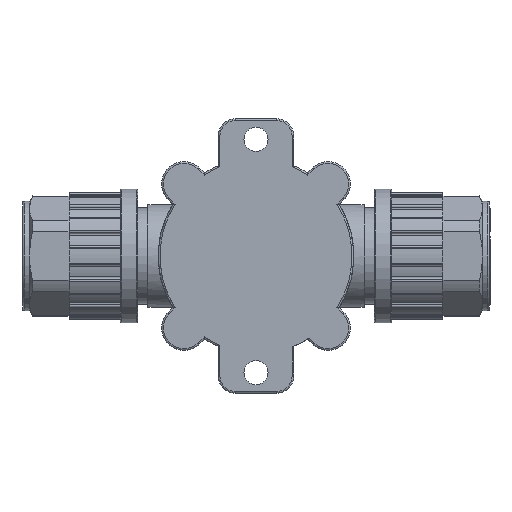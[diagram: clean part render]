
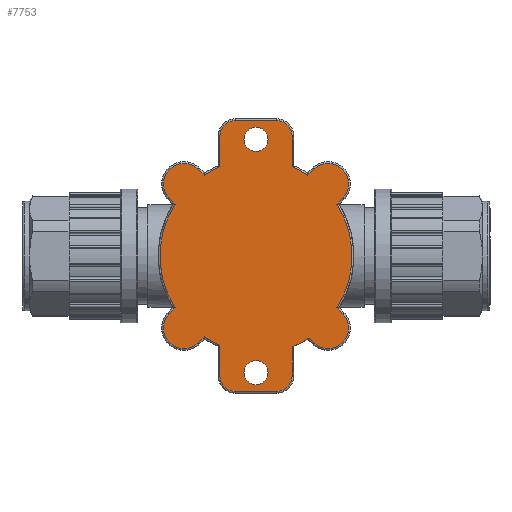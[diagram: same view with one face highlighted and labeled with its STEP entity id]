
A CAD part, front view. The second image highlights one B-rep face of the part: STEP entity #7753.
In plain terms, the highlighted planar face has unit normal (0, -1, 0).
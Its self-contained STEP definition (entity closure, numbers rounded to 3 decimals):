
#4340=LINE('',#43058,#6520);
#4341=LINE('',#43062,#6521);
#4342=LINE('',#43066,#6522);
#4343=LINE('',#43070,#6523);
#4344=LINE('',#43074,#6524);
#4345=LINE('',#43078,#6525);
#4346=LINE('',#43082,#6526);
#4347=LINE('',#43086,#6527);
#4348=LINE('',#43090,#6528);
#4349=LINE('',#43094,#6529);
#4350=LINE('',#43098,#6530);
#4351=LINE('',#43102,#6531);
#4352=LINE('',#43106,#6532);
#4353=LINE('',#43110,#6533);
#6520=VECTOR('',#30358,1.);
#6521=VECTOR('',#30361,1.);
#6522=VECTOR('',#30364,1.);
#6523=VECTOR('',#30367,1.);
#6524=VECTOR('',#30370,1.);
#6525=VECTOR('',#30373,1.);
#6526=VECTOR('',#30376,1.);
#6527=VECTOR('',#30379,1.);
#6528=VECTOR('',#30382,1.);
#6529=VECTOR('',#30385,1.);
#6530=VECTOR('',#30388,1.);
#6531=VECTOR('',#30391,1.);
#6532=VECTOR('',#30394,1.);
#6533=VECTOR('',#30397,1.);
#7753=ADVANCED_FACE('',(#8712,#8713,#8714),#8504,.F.);
#8504=PLANE('',#24707);
#8712=FACE_BOUND('',#10021,.T.);
#8713=FACE_BOUND('',#10022,.T.);
#8714=FACE_BOUND('',#10023,.T.);
#10021=EDGE_LOOP('',(#16237,#16238,#16239,#16240,#16241,#16242,#16243,#16244,
#16245,#16246,#16247,#16248,#16249,#16250,#16251,#16252,#16253,#16254,#16255,
#16256,#16257,#16258,#16259,#16260,#16261,#16262,#16263,#16264));
#10022=EDGE_LOOP('',(#16265));
#10023=EDGE_LOOP('',(#16266));
#16237=ORIENTED_EDGE('',*,*,#21975,.F.);
#16238=ORIENTED_EDGE('',*,*,#21976,.T.);
#16239=ORIENTED_EDGE('',*,*,#21977,.T.);
#16240=ORIENTED_EDGE('',*,*,#21978,.T.);
#16241=ORIENTED_EDGE('',*,*,#21979,.T.);
#16242=ORIENTED_EDGE('',*,*,#21980,.T.);
#16243=ORIENTED_EDGE('',*,*,#21981,.T.);
#16244=ORIENTED_EDGE('',*,*,#21982,.T.);
#16245=ORIENTED_EDGE('',*,*,#21983,.T.);
#16246=ORIENTED_EDGE('',*,*,#21984,.T.);
#16247=ORIENTED_EDGE('',*,*,#21985,.T.);
#16248=ORIENTED_EDGE('',*,*,#21986,.T.);
#16249=ORIENTED_EDGE('',*,*,#21987,.T.);
#16250=ORIENTED_EDGE('',*,*,#21988,.T.);
#16251=ORIENTED_EDGE('',*,*,#21989,.T.);
#16252=ORIENTED_EDGE('',*,*,#21990,.T.);
#16253=ORIENTED_EDGE('',*,*,#21991,.T.);
#16254=ORIENTED_EDGE('',*,*,#21992,.T.);
#16255=ORIENTED_EDGE('',*,*,#21993,.T.);
#16256=ORIENTED_EDGE('',*,*,#21994,.T.);
#16257=ORIENTED_EDGE('',*,*,#21995,.T.);
#16258=ORIENTED_EDGE('',*,*,#21996,.T.);
#16259=ORIENTED_EDGE('',*,*,#21997,.T.);
#16260=ORIENTED_EDGE('',*,*,#21998,.T.);
#16261=ORIENTED_EDGE('',*,*,#21999,.T.);
#16262=ORIENTED_EDGE('',*,*,#22000,.T.);
#16263=ORIENTED_EDGE('',*,*,#22001,.T.);
#16264=ORIENTED_EDGE('',*,*,#22002,.T.);
#16265=ORIENTED_EDGE('',*,*,#22003,.T.);
#16266=ORIENTED_EDGE('',*,*,#22004,.T.);
#18778=VERTEX_POINT('',#43056);
#18779=VERTEX_POINT('',#43057);
#18780=VERTEX_POINT('',#43059);
#18781=VERTEX_POINT('',#43061);
#18782=VERTEX_POINT('',#43063);
#18783=VERTEX_POINT('',#43065);
#18784=VERTEX_POINT('',#43067);
#18785=VERTEX_POINT('',#43069);
#18786=VERTEX_POINT('',#43071);
#18787=VERTEX_POINT('',#43073);
#18788=VERTEX_POINT('',#43075);
#18789=VERTEX_POINT('',#43077);
#18790=VERTEX_POINT('',#43079);
#18791=VERTEX_POINT('',#43081);
#18792=VERTEX_POINT('',#43083);
#18793=VERTEX_POINT('',#43085);
#18794=VERTEX_POINT('',#43087);
#18795=VERTEX_POINT('',#43089);
#18796=VERTEX_POINT('',#43091);
#18797=VERTEX_POINT('',#43093);
#18798=VERTEX_POINT('',#43095);
#18799=VERTEX_POINT('',#43097);
#18800=VERTEX_POINT('',#43099);
#18801=VERTEX_POINT('',#43101);
#18802=VERTEX_POINT('',#43103);
#18803=VERTEX_POINT('',#43105);
#18804=VERTEX_POINT('',#43107);
#18805=VERTEX_POINT('',#43109);
#18806=VERTEX_POINT('',#43112);
#18807=VERTEX_POINT('',#43114);
#21975=EDGE_CURVE('',#18778,#18779,#22907,.T.);
#21976=EDGE_CURVE('',#18778,#18780,#4340,.T.);
#21977=EDGE_CURVE('',#18780,#18781,#22908,.T.);
#21978=EDGE_CURVE('',#18781,#18782,#4341,.T.);
#21979=EDGE_CURVE('',#18782,#18783,#22909,.T.);
#21980=EDGE_CURVE('',#18783,#18784,#4342,.T.);
#21981=EDGE_CURVE('',#18784,#18785,#22910,.T.);
#21982=EDGE_CURVE('',#18785,#18786,#4343,.T.);
#21983=EDGE_CURVE('',#18786,#18787,#22911,.T.);
#21984=EDGE_CURVE('',#18787,#18788,#4344,.T.);
#21985=EDGE_CURVE('',#18788,#18789,#22912,.T.);
#21986=EDGE_CURVE('',#18789,#18790,#4345,.T.);
#21987=EDGE_CURVE('',#18790,#18791,#22913,.T.);
#21988=EDGE_CURVE('',#18791,#18792,#4346,.T.);
#21989=EDGE_CURVE('',#18792,#18793,#22914,.T.);
#21990=EDGE_CURVE('',#18793,#18794,#4347,.T.);
#21991=EDGE_CURVE('',#18794,#18795,#22915,.T.);
#21992=EDGE_CURVE('',#18795,#18796,#4348,.T.);
#21993=EDGE_CURVE('',#18796,#18797,#22916,.T.);
#21994=EDGE_CURVE('',#18797,#18798,#4349,.T.);
#21995=EDGE_CURVE('',#18798,#18799,#22917,.T.);
#21996=EDGE_CURVE('',#18799,#18800,#4350,.T.);
#21997=EDGE_CURVE('',#18800,#18801,#22918,.T.);
#21998=EDGE_CURVE('',#18801,#18802,#4351,.T.);
#21999=EDGE_CURVE('',#18802,#18803,#22919,.T.);
#22000=EDGE_CURVE('',#18803,#18804,#4352,.T.);
#22001=EDGE_CURVE('',#18804,#18805,#22920,.T.);
#22002=EDGE_CURVE('',#18805,#18779,#4353,.T.);
#22003=EDGE_CURVE('',#18806,#18806,#22921,.T.);
#22004=EDGE_CURVE('',#18807,#18807,#22922,.T.);
#22907=CIRCLE('',#24691,28.5);
#22908=CIRCLE('',#24692,6.);
#22909=CIRCLE('',#24693,28.);
#22910=CIRCLE('',#24694,6.);
#22911=CIRCLE('',#24695,28.);
#22912=CIRCLE('',#24696,4.5);
#22913=CIRCLE('',#24697,4.5);
#22914=CIRCLE('',#24698,28.);
#22915=CIRCLE('',#24699,6.);
#22916=CIRCLE('',#24700,28.);
#22917=CIRCLE('',#24701,6.);
#22918=CIRCLE('',#24702,28.);
#22919=CIRCLE('',#24703,4.5);
#22920=CIRCLE('',#24704,4.5);
#22921=CIRCLE('',#24705,3.5);
#22922=CIRCLE('',#24706,3.5);
#24691=AXIS2_PLACEMENT_3D('',#43055,#30356,#30357);
#24692=AXIS2_PLACEMENT_3D('',#43060,#30359,#30360);
#24693=AXIS2_PLACEMENT_3D('',#43064,#30362,#30363);
#24694=AXIS2_PLACEMENT_3D('',#43068,#30365,#30366);
#24695=AXIS2_PLACEMENT_3D('',#43072,#30368,#30369);
#24696=AXIS2_PLACEMENT_3D('',#43076,#30371,#30372);
#24697=AXIS2_PLACEMENT_3D('',#43080,#30374,#30375);
#24698=AXIS2_PLACEMENT_3D('',#43084,#30377,#30378);
#24699=AXIS2_PLACEMENT_3D('',#43088,#30380,#30381);
#24700=AXIS2_PLACEMENT_3D('',#43092,#30383,#30384);
#24701=AXIS2_PLACEMENT_3D('',#43096,#30386,#30387);
#24702=AXIS2_PLACEMENT_3D('',#43100,#30389,#30390);
#24703=AXIS2_PLACEMENT_3D('',#43104,#30392,#30393);
#24704=AXIS2_PLACEMENT_3D('',#43108,#30395,#30396);
#24705=AXIS2_PLACEMENT_3D('',#43111,#30398,#30399);
#24706=AXIS2_PLACEMENT_3D('',#43113,#30400,#30401);
#24707=AXIS2_PLACEMENT_3D('',#43115,#30402,#30403);
#30356=DIRECTION('',(0.,1.,0.));
#30357=DIRECTION('',(0.,0.,1.));
#30358=DIRECTION('',(0.707,0.,-0.707));
#30359=DIRECTION('',(0.,-1.,0.));
#30360=DIRECTION('',(0.,0.,1.));
#30361=DIRECTION('',(-0.707,0.,0.707));
#30362=DIRECTION('',(0.,-1.,0.));
#30363=DIRECTION('',(0.,0.,1.));
#30364=DIRECTION('',(0.707,0.,0.707));
#30365=DIRECTION('',(0.,-1.,0.));
#30366=DIRECTION('',(0.,0.,1.));
#30367=DIRECTION('',(-0.707,0.,-0.707));
#30368=DIRECTION('',(0.,-1.,0.));
#30369=DIRECTION('',(0.,0.,1.));
#30370=DIRECTION('',(0.,0.,1.));
#30371=DIRECTION('',(0.,-1.,0.));
#30372=DIRECTION('',(0.,0.,1.));
#30373=DIRECTION('',(-1.,0.,0.));
#30374=DIRECTION('',(0.,-1.,0.));
#30375=DIRECTION('',(0.,0.,1.));
#30376=DIRECTION('',(0.,0.,-1.));
#30377=DIRECTION('',(0.,-1.,0.));
#30378=DIRECTION('',(0.,0.,1.));
#30379=DIRECTION('',(-0.707,0.,0.707));
#30380=DIRECTION('',(0.,-1.,0.));
#30381=DIRECTION('',(0.,0.,1.));
#30382=DIRECTION('',(0.707,0.,-0.707));
#30383=DIRECTION('',(0.,-1.,0.));
#30384=DIRECTION('',(0.,0.,1.));
#30385=DIRECTION('',(-0.707,0.,-0.707));
#30386=DIRECTION('',(0.,-1.,0.));
#30387=DIRECTION('',(0.,0.,1.));
#30388=DIRECTION('',(0.707,0.,0.707));
#30389=DIRECTION('',(0.,-1.,0.));
#30390=DIRECTION('',(0.,0.,1.));
#30391=DIRECTION('',(0.,0.,-1.));
#30392=DIRECTION('',(0.,-1.,0.));
#30393=DIRECTION('',(0.,0.,1.));
#30394=DIRECTION('',(1.,0.,0.));
#30395=DIRECTION('',(0.,-1.,0.));
#30396=DIRECTION('',(0.,0.,1.));
#30397=DIRECTION('',(0.,0.,1.));
#30398=DIRECTION('',(0.,1.,0.));
#30399=DIRECTION('',(0.,0.,1.));
#30400=DIRECTION('',(0.,1.,0.));
#30401=DIRECTION('',(0.,0.,-1.));
#30402=DIRECTION('',(0.,1.,0.));
#30403=DIRECTION('',(0.,0.,-1.));
#43055=CARTESIAN_POINT('',(0.,0.,0.));
#43056=CARTESIAN_POINT('',(15.458,0.,-23.944));
#43057=CARTESIAN_POINT('',(10.5,0.,-26.495));
#43058=CARTESIAN_POINT('',(16.757,0.,-25.243));
#43059=CARTESIAN_POINT('',(16.757,0.,-25.243));
#43060=CARTESIAN_POINT('',(21.,0.,-21.));
#43061=CARTESIAN_POINT('',(25.243,0.,-16.757));
#43062=CARTESIAN_POINT('',(23.582,0.,-15.096));
#43063=CARTESIAN_POINT('',(23.582,0.,-15.096));
#43064=CARTESIAN_POINT('',(0.,0.,0.));
#43065=CARTESIAN_POINT('',(23.582,0.,15.096));
#43066=CARTESIAN_POINT('',(25.243,0.,16.757));
#43067=CARTESIAN_POINT('',(25.243,0.,16.757));
#43068=CARTESIAN_POINT('',(21.,0.,21.));
#43069=CARTESIAN_POINT('',(16.757,0.,25.243));
#43070=CARTESIAN_POINT('',(15.096,0.,23.582));
#43071=CARTESIAN_POINT('',(15.096,0.,23.582));
#43072=CARTESIAN_POINT('',(0.,0.,0.));
#43073=CARTESIAN_POINT('',(10.5,0.,25.957));
#43074=CARTESIAN_POINT('',(10.5,0.,35.));
#43075=CARTESIAN_POINT('',(10.5,0.,35.));
#43076=CARTESIAN_POINT('',(6.,0.,35.));
#43077=CARTESIAN_POINT('',(6.,0.,39.5));
#43078=CARTESIAN_POINT('',(-6.,0.,39.5));
#43079=CARTESIAN_POINT('',(-6.,0.,39.5));
#43080=CARTESIAN_POINT('',(-6.,0.,35.));
#43081=CARTESIAN_POINT('',(-10.5,0.,35.));
#43082=CARTESIAN_POINT('',(-10.5,0.,25.957));
#43083=CARTESIAN_POINT('',(-10.5,0.,25.957));
#43084=CARTESIAN_POINT('',(0.,0.,0.));
#43085=CARTESIAN_POINT('',(-15.096,0.,23.582));
#43086=CARTESIAN_POINT('',(-16.757,0.,25.243));
#43087=CARTESIAN_POINT('',(-16.757,0.,25.243));
#43088=CARTESIAN_POINT('',(-21.,0.,21.));
#43089=CARTESIAN_POINT('',(-25.243,0.,16.757));
#43090=CARTESIAN_POINT('',(-23.582,0.,15.096));
#43091=CARTESIAN_POINT('',(-23.582,0.,15.096));
#43092=CARTESIAN_POINT('',(0.,0.,0.));
#43093=CARTESIAN_POINT('',(-23.582,0.,-15.096));
#43094=CARTESIAN_POINT('',(-25.243,0.,-16.757));
#43095=CARTESIAN_POINT('',(-25.243,0.,-16.757));
#43096=CARTESIAN_POINT('',(-21.,0.,-21.));
#43097=CARTESIAN_POINT('',(-16.757,0.,-25.243));
#43098=CARTESIAN_POINT('',(-15.096,0.,-23.582));
#43099=CARTESIAN_POINT('',(-15.096,0.,-23.582));
#43100=CARTESIAN_POINT('',(0.,0.,0.));
#43101=CARTESIAN_POINT('',(-10.5,0.,-25.957));
#43102=CARTESIAN_POINT('',(-10.5,0.,-35.));
#43103=CARTESIAN_POINT('',(-10.5,0.,-35.));
#43104=CARTESIAN_POINT('',(-6.,0.,-35.));
#43105=CARTESIAN_POINT('',(-6.,0.,-39.5));
#43106=CARTESIAN_POINT('',(6.,0.,-39.5));
#43107=CARTESIAN_POINT('',(6.,0.,-39.5));
#43108=CARTESIAN_POINT('',(6.,0.,-35.));
#43109=CARTESIAN_POINT('',(10.5,0.,-35.));
#43110=CARTESIAN_POINT('',(10.5,0.,-26.495));
#43111=CARTESIAN_POINT('',(0.,0.,-34.));
#43112=CARTESIAN_POINT('',(0.,0.,-30.5));
#43113=CARTESIAN_POINT('',(0.,0.,34.));
#43114=CARTESIAN_POINT('',(0.,0.,30.5));
#43115=CARTESIAN_POINT('',(0.,0.,0.));
